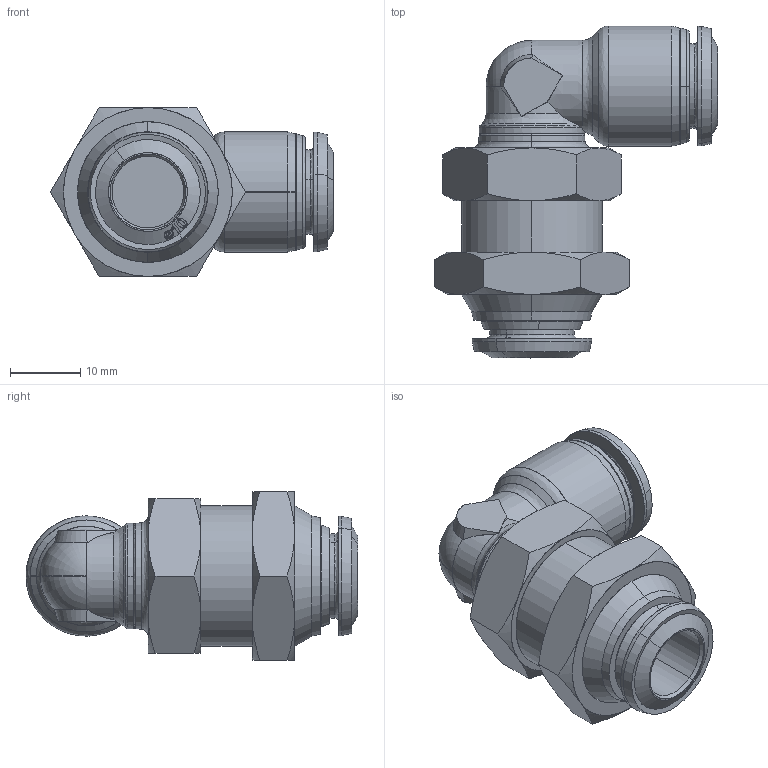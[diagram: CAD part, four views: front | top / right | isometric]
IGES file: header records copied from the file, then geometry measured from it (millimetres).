
Start section: SolidWorks IGES file using analytic representation for surfaces
Global section: file name: K:\Disegni Esecutivi\SERIE 55000\ASSIEMI_55000\55060\STEP e IGES\5006000006A.IGS; native system: SolidWorks 2016; preprocessor: SolidWorks 2016; author: cad08; date: 190611.154530; units: millimetre
Bounding box: 40.26 x 47.2 x 24 mm (x, y, z)
Surface area: 5844.9 mm2 (no closed solid volume)
Topology: 0 solids, 0 shells, 241 faces, 3000 edges, 2998 vertices
Faces by surface type: bspline 139, revolution 102
